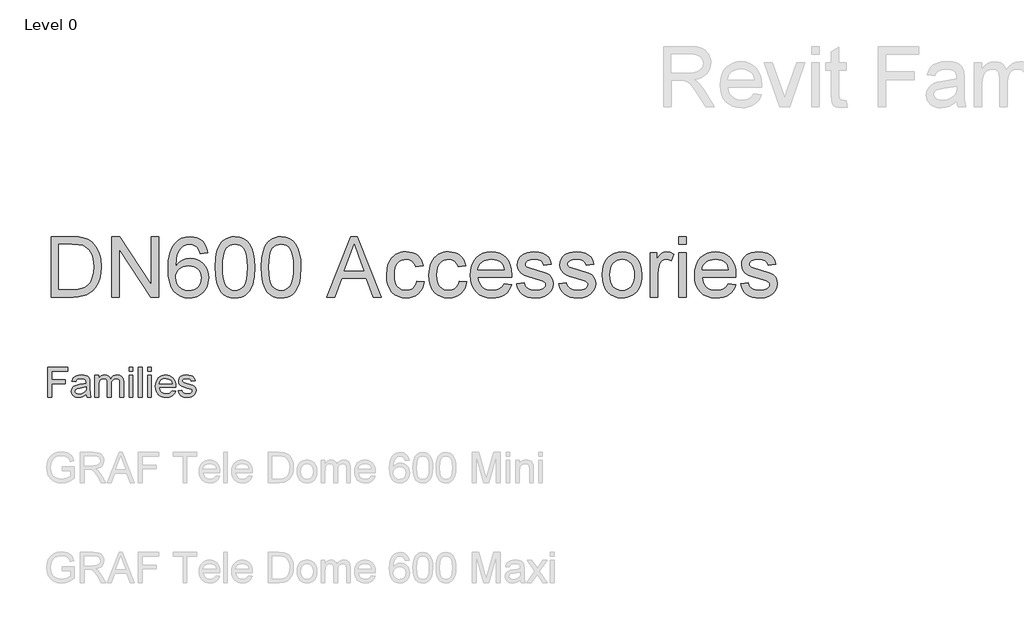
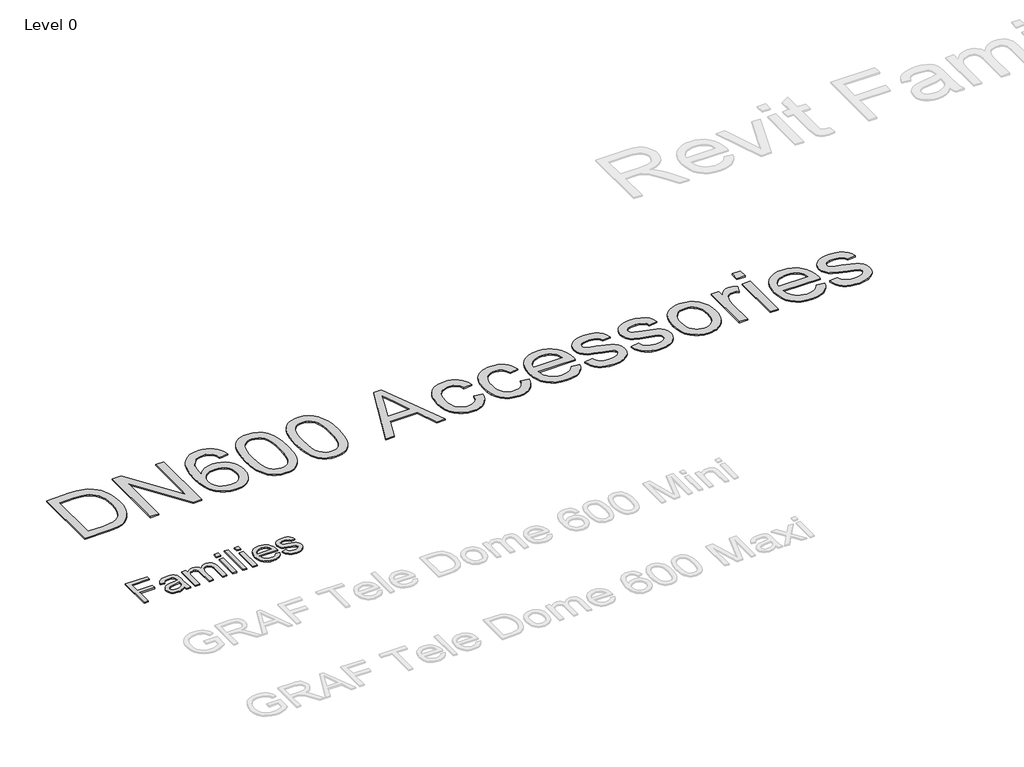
# One storey, part 23 of 25: 2 proxies.
"""IFC4 building model written with IfcOpenShell, lengths in millimetres."""

from ifc_helpers import new_model, si_unit, origin, origin_with_axes, place, context, project, spatial, polyline, outline, extrude, element, save

model = new_model("IFC4")

# Units and contexts
model_context = context("Model", 3, world=origin())
ifc_project = project(units=[si_unit("LENGTHUNIT", "METRE", prefix="MILLI")], contexts=[model_context])

# Site, building, storey
site = spatial("IfcSite", under=ifc_project)
building = spatial("IfcBuilding", under=site)
storey = spatial("IfcBuildingStorey", under=building, Name="Level 0", Elevation=0.0)

# Proxies
placement = place(None, origin())
element("IfcBuildingElementProxy", 1, Name="300mm Arial", ObjectType="300mm Arial", at=placement, inside=storey, context=model_context, shape_type="SweptSolid", body=[
    extrude(outline(polyline([(-15382.9152593, 8653.8274553), (-15382.9152593, 8949.2120707), (-15184.4537209, 8949.2120707), (-15184.4537209, 8912.2889938), (-15345.9921824, 8912.2889938), (-15345.9921824, 8824.5966861), (-15207.530644, 8824.5966861), (-15207.530644, 8787.6736092), (-15345.9921824, 8787.6736092), (-15345.9921824, 8653.8274553), (-15382.9152593, 8653.8274553)])), origin_with_axes(), (0.0, 0.0, 1.0), 10.0),
    extrude(outline(polyline([(-14999.8383363, 8681.519763), (-15017.4795622, 8666.3935611), (-15035.6436247, 8656.4957246), (-15054.7451872, 8651.0329842), (-15075.1989132, 8649.2120707), (-15106.0552834, 8653.5930803), (-15128.8167017, 8666.7361092), (-15142.8521584, 8686.6940419), (-15147.530644, 8711.519763), (-15145.763817, 8726.8262534), (-15140.4633363, 8740.7264938), (-15132.2872545, 8752.6255323), (-15121.8936247, 8761.9284169), (-15096.0402593, 8774.0438015), (-15064.093144, 8779.5966861), (-15026.3407401, 8785.4380323), (-15000.0546824, 8792.2889938), (-14999.8383363, 8800.5101476), (-15002.3804036, 8816.988513), (-15010.0066055, 8827.769763), (-15027.061894, 8835.7745707), (-15050.8239132, 8838.44284), (-15072.8191055, 8836.6669986), (-15088.1796824, 8831.3394746), (-15098.654442, 8821.4867101), (-15105.9921824, 8806.1351476), (-15142.9152593, 8810.7505323), (-15136.5060045, 8830.94284), (-15126.9417017, 8846.8082246), (-15113.3299228, 8858.941638), (-15094.7782401, 8867.9380323), (-15072.0889372, 8873.5089457), (-15046.0642978, 8875.3659169), (-15021.1033603, 8873.7252919), (-15001.3167017, 8868.8034169), (-14986.3978315, 8861.4025755), (-14976.0402593, 8852.3250515), (-14969.171269, 8841.1020948), (-14964.718144, 8827.2649553), (-14962.9152593, 8794.957263), (-14962.9152593, 8749.019763), (-14961.0402593, 8684.8731284), (-14953.6844901, 8653.8274553), (-14990.607567, 8653.8274553), (-14999.8383363, 8681.519763)]), holes=[polyline([(-14999.8383363, 8755.3659169), (-15059.405644, 8744.0438015), (-15091.1724709, 8738.0582246), (-15105.5594901, 8728.3226476), (-15110.607567, 8714.1159169), (-15107.858168, 8703.1363496), (-15099.6099709, 8694.1399553), (-15086.0432642, 8688.1363496), (-15067.3383363, 8686.1351476), (-15047.5066055, 8688.3436813), (-15029.982567, 8694.9692823), (-15015.7758363, 8704.7319025), (-15005.8960286, 8716.3514938), (-15001.515019, 8728.3226476), (-15000.0546824, 8744.9091861), (-14999.8383363, 8755.3659169)])]), origin_with_axes(), (0.0, 0.0, 1.0), 10.0),
    extrude(outline(polyline([(-14912.1460286, 8653.8274553), (-14912.1460286, 8870.7505323), (-14875.2229517, 8870.7505323), (-14875.2229517, 8835.0534169), (-14864.1171824, 8851.4506525), (-14849.8383363, 8864.2962053), (-14832.873192, 8872.598489), (-14813.7085286, 8875.3659169), (-14793.1736728, 8872.5444025), (-14776.7133363, 8864.0798592), (-14764.4176632, 8850.5311813), (-14756.3767978, 8832.457263), (-14742.9182642, 8851.2297991), (-14727.5667017, 8864.6387534), (-14710.3221103, 8872.684126), (-14691.1844901, 8875.3659169), (-14663.4290815, 8870.9037775), (-14642.9032401, 8857.5173592), (-14630.2199468, 8834.8460851), (-14625.9921824, 8802.5293784), (-14625.9921824, 8653.8274553), (-14662.9152593, 8653.8274553), (-14662.9152593, 8786.6639938), (-14666.3407401, 8817.4933207), (-14671.154442, 8825.9939217), (-14678.7445863, 8832.6736092), (-14688.5072065, 8837.0005323), (-14699.8383363, 8838.44284), (-14719.8413411, 8834.7469265), (-14736.1484324, 8823.6591861), (-14746.9927834, 8804.4224073), (-14750.607567, 8776.2793784), (-14750.607567, 8653.8274553), (-14787.530644, 8653.8274553), (-14787.530644, 8790.7745707), (-14789.6670622, 8811.6519746), (-14796.076317, 8826.5438015), (-14807.3533603, 8835.4680803), (-14824.093144, 8838.44284), (-14838.3179036, 8836.4596669), (-14851.4248747, 8830.5101476), (-14862.2421824, 8820.738513), (-14869.5979517, 8807.2889938), (-14873.8167017, 8788.629138), (-14875.2229517, 8763.2264938), (-14875.2229517, 8653.8274553), (-14912.1460286, 8653.8274553)])), origin_with_axes(), (0.0, 0.0, 1.0), 10.0),
    extrude(outline(polyline([(-14570.607567, 8912.2889938), (-14570.607567, 8949.2120707), (-14533.6844901, 8949.2120707), (-14533.6844901, 8912.2889938), (-14570.607567, 8912.2889938)])), origin_with_axes(), (0.0, 0.0, 1.0), 10.0),
    extrude(outline(polyline([(-14570.607567, 8653.8274553), (-14570.607567, 8870.7505323), (-14533.6844901, 8870.7505323), (-14533.6844901, 8653.8274553), (-14570.607567, 8653.8274553)])), origin_with_axes(), (0.0, 0.0, 1.0), 10.0),
    extrude(outline(polyline([(-14478.2998747, 8653.8274553), (-14478.2998747, 8949.2120707), (-14441.3767978, 8949.2120707), (-14441.3767978, 8653.8274553), (-14478.2998747, 8653.8274553)])), origin_with_axes(), (0.0, 0.0, 1.0), 10.0),
    extrude(outline(polyline([(-14385.9921824, 8912.2889938), (-14385.9921824, 8949.2120707), (-14349.0691055, 8949.2120707), (-14349.0691055, 8912.2889938), (-14385.9921824, 8912.2889938)])), origin_with_axes(), (0.0, 0.0, 1.0), 10.0),
    extrude(outline(polyline([(-14385.9921824, 8653.8274553), (-14385.9921824, 8870.7505323), (-14349.0691055, 8870.7505323), (-14349.0691055, 8653.8274553), (-14385.9921824, 8653.8274553)])), origin_with_axes(), (0.0, 0.0, 1.0), 10.0),
    extrude(outline(polyline([(-14141.8094901, 8718.44284), (-14105.607567, 8713.8274553), (-14118.6514372, 8686.5498111), (-14139.4657401, 8666.1591861), (-14167.5817257, 8653.4488496), (-14202.530644, 8649.2120707), (-14225.4408002, 8651.039745), (-14245.8539613, 8656.5227678), (-14263.7701271, 8665.6611392), (-14279.1892978, 8678.4548592), (-14291.5886367, 8694.547858), (-14300.4453074, 8713.5840659), (-14305.7593098, 8735.563483), (-14307.530644, 8760.4861092), (-14305.741281, 8786.2538375), (-14300.373192, 8808.9656765), (-14291.4263771, 8828.621626), (-14278.9008363, 8845.2216861), (-14263.5222305, 8858.4097871), (-14246.0162209, 8867.8298592), (-14226.3828074, 8873.4819025), (-14204.6219901, 8875.3659169), (-14183.5620442, 8873.4864097), (-14164.5168218, 8867.847888), (-14147.486323, 8858.450352), (-14132.4705478, 8845.2938015), (-14120.213186, 8828.7297991), (-14111.4579276, 8809.1099073), (-14106.2047726, 8786.434126), (-14104.4537209, 8760.7024553), (-14104.670067, 8750.7505323), (-14270.607567, 8750.7505323), (-14264.2163411, 8723.1123111), (-14249.3695863, 8702.7938015), (-14227.9423026, 8690.2998111), (-14201.8094901, 8686.1351476), (-14182.1580478, 8688.0642342), (-14165.607567, 8693.8514938), (-14152.1580478, 8703.8575034), (-14141.8094901, 8718.44284)]), holes=[polyline([(-14270.607567, 8787.6736092), (-14141.3767978, 8787.6736092), (-14146.3707882, 8807.1808207), (-14156.1604517, 8821.1351476), (-14177.686894, 8834.1159169), (-14204.7662209, 8838.44284), (-14229.655043, 8834.9903159), (-14250.2349709, 8824.6327438), (-14264.5408603, 8808.4879121), (-14270.607567, 8787.6736092)])]), origin_with_axes(), (0.0, 0.0, 1.0), 10.0),
    extrude(outline(polyline([(-14081.3767978, 8718.44284), (-14044.4537209, 8723.0582246), (-14038.6304036, 8707.2649553), (-14027.3623747, 8695.6543784), (-14010.577519, 8688.5149553), (-13988.2037209, 8686.1351476), (-13966.1003555, 8688.316638), (-13950.5594901, 8694.8611092), (-13941.3647786, 8704.3442823), (-13938.2998747, 8715.3418784), (-13941.3828074, 8724.7529361), (-13950.6316055, 8731.9284169), (-13988.6364132, 8742.457263), (-14044.2373747, 8760.5221669), (-14058.3088892, 8769.5996909), (-14068.5042017, 8781.6159169), (-14074.6971103, 8795.8046188), (-14076.7614132, 8811.3995707), (-14075.1027593, 8825.7054601), (-14070.1267978, 8838.91159), (-14062.2842497, 8850.4951236), (-14052.0258363, 8859.9332246), (-14028.5522786, 8870.8587053), (-13996.7854517, 8875.3659169), (-13972.7529997, 8873.5540178), (-13951.857567, 8868.1183207), (-13935.0546824, 8859.5906765), (-13923.2998747, 8848.5029361), (-13915.5114132, 8834.0347871), (-13910.607567, 8815.3659169), (-13947.530644, 8810.7505323), (-13952.1911007, 8822.3701236), (-13961.4128555, 8831.1231284), (-13975.2860526, 8836.6129121), (-13993.9008363, 8838.44284), (-14015.1027593, 8836.6940419), (-14029.2373747, 8831.4476476), (-14037.1880959, 8823.8755323), (-14039.8383363, 8815.1495707), (-14035.4392978, 8804.4043784), (-14021.6652593, 8796.25534), (-13989.8623747, 8788.394763), (-13935.6676632, 8771.0149553), (-13921.3527593, 8762.7036573), (-13910.499394, 8751.3274553), (-13903.6574468, 8736.8502919), (-13901.3767978, 8719.2361092), (-13904.0540815, 8701.0269746), (-13912.0859324, 8683.8995707), (-13925.1658603, 8669.1970467), (-13942.9873747, 8658.2625515), (-13964.513817, 8651.4746909), (-13988.7085286, 8649.2120707), (-14025.9380959, 8653.5750515), (-14053.107567, 8666.6639938), (-14071.2445863, 8688.3346669), (-14081.3767978, 8718.44284)])), origin_with_axes(), (0.0, 0.0, 1.0), 10.0),
])
element("IfcBuildingElementProxy", 2, Name="600mm Arial", ObjectType="600mm Arial", at=placement, inside=storey, context=model_context, shape_type="SweptSolid", body=[
    extrude(outline(polyline([(-15349.2984981, 9653.8274553), (-15349.2984981, 10256.5653162), (-15141.3715944, 10256.5653162), (-15079.2363255, 10254.3948125), (-15033.8028991, 10247.8833011), (-14985.7575105, 10231.1446704), (-14945.2169146, 10204.7675313), (-14922.8772805, 10183.2096464), (-14903.5358846, 10158.8558583), (-14887.1927269, 10131.7061671), (-14873.8478075, 10101.7605727), (-14863.4827323, 10069.2949866), (-14856.0791072, 10034.5853203), (-14850.1562071, 9958.4337473), (-14854.1661208, 9893.7416985), (-14866.195862, 9836.8119597), (-14884.5163854, 9788.3435069), (-14907.3986455, 9749.0353157), (-14933.7389964, 9718.0044694), (-14962.433792, 9694.3680512), (-14995.3776247, 9676.8384741), (-15034.4650866, 9664.1281512), (-15079.7697543, 9656.4026293), (-15131.3652042, 9653.8274553), (-15349.2984981, 9653.8274553)]), holes=[polyline([(-15273.9562655, 9729.1696879), (-15140.6358305, 9729.1696879), (-15085.4903194, 9731.8920147), (-15043.6621365, 9740.058995), (-15012.0978613, 9753.1923822), (-14987.7440733, 9770.8139298), (-14961.5692693, 9803.4266687), (-14941.9059767, 9845.6411276), (-14929.6003239, 9897.6412476), (-14925.4984397, 9959.6109697), (-14927.5079951, 10003.352139), (-14933.5366613, 10041.722231), (-14943.5844383, 10074.721246), (-14957.6513261, 10102.3491839), (-14974.5968905, 10125.231444), (-14993.2806973, 10143.9934257), (-15013.7027465, 10158.6351291), (-15035.8630382, 10169.1565542), (-15079.1995373, 10178.2064513), (-15142.6959696, 10181.2230836), (-15273.9562655, 10181.2230836), (-15273.9562655, 9729.1696879)])]), origin_with_axes(), (0.0, 0.0, 1.0), 10.0),
    extrude(outline(polyline([(-14746.5606372, 9653.8274553), (-14746.5606372, 10256.5653162), (-14665.9209039, 10256.5653162), (-14351.013916, 9779.0544865), (-14351.013916, 10256.5653162), (-14275.6716834, 10256.5653162), (-14275.6716834, 9653.8274553), (-14356.3114167, 9653.8274553), (-14671.2184046, 10131.4854379), (-14671.2184046, 9653.8274553), (-14746.5606372, 9653.8274553)])), origin_with_axes(), (0.0, 0.0, 1.0), 10.0),
    extrude(outline(polyline([(-13785.9471714, 10096.4630719), (-13861.289404, 10087.0452929), (-13873.4295099, 10124.3853154), (-13889.8370469, 10149.8795376), (-13906.0330517, 10163.592339), (-13924.0132842, 10173.3871971), (-13943.7777444, 10179.264112), (-13965.3264323, 10181.2230836), (-14000.3487982, 10176.6613469), (-14033.311025, 10162.9761367), (-14061.6195445, 10134.1525823), (-14084.7409279, 10094.4765092), (-14093.7770294, 10069.1708264), (-14100.3575186, 10038.3561108), (-14106.15166, 9960.1995809), (-14075.9301541, 9995.4610702), (-14039.7121717, 10020.3114989), (-13999.5210637, 10035.0451728), (-13957.3801812, 10039.9563975), (-13921.1805928, 10036.5994743), (-13887.7769077, 10026.5287046), (-13857.1691257, 10009.7440886), (-13829.3572468, 9986.2456262), (-13806.2450605, 9957.4312689), (-13789.736356, 9924.6989684), (-13779.8311332, 9888.0487246), (-13776.5293923, 9847.4805376), (-13778.0836938, 9820.0135481), (-13782.7465981, 9793.530643), (-13790.5181052, 9768.0318222), (-13801.3982152, 9743.5170858), (-13815.000652, 9720.9015401), (-13830.9391394, 9701.1002917), (-13849.2136775, 9684.1133406), (-13869.8242663, 9669.9406867), (-13892.3294474, 9658.7708696), (-13916.2877623, 9650.7924289), (-13941.6992111, 9646.0053644), (-13968.5637938, 9644.4096763), (-14013.4775869, 9648.6403192), (-14054.0411754, 9661.332248), (-14090.2545593, 9682.4854628), (-14122.1177386, 9712.0999634), (-14148.094806, 9751.4265487), (-14166.6498541, 9801.7160174), (-14177.782883, 9862.9683696), (-14181.4938926, 9935.1836052), (-14177.3736143, 10016.1452353), (-14165.0127792, 10085.2426711), (-14144.4113875, 10142.4759125), (-14131.0204829, 10166.6434603), (-14115.5694391, 10187.8449595), (-14084.3086666, 10217.9101156), (-14048.063093, 10239.3852271), (-14006.8327184, 10252.2702939), (-13960.6175427, 10256.5653162), (-13925.9170735, 10253.9073688), (-13894.5091482, 10245.9335266), (-13866.3937667, 10232.6437895), (-13841.5709291, 10214.0381576), (-13820.71202, 10190.7420302), (-13804.488424, 10163.3808069), (-13792.9001411, 10131.9544874), (-13785.9471714, 10096.4630719)]), holes=[polyline([(-14106.15166, 9848.65776), (-14101.7922584, 9815.2724689), (-14088.7140534, 9783.395494), (-14068.4069673, 9755.9882854), (-14042.3609221, 9736.0122931), (-14010.9254056, 9723.8170049), (-13974.4499057, 9719.7519089), (-13948.2613062, 9721.8580333), (-13924.7306541, 9728.1764066), (-13903.8579494, 9738.7070287), (-13885.6431921, 9753.4498996), (-13870.8681315, 9771.8072112), (-13860.3145167, 9793.1811551), (-13853.9823479, 9817.5717314), (-13851.8716249, 9844.97894), (-13853.9547567, 9871.3146924), (-13860.2041521, 9894.6981917), (-13870.6198111, 9915.129438), (-13885.2017337, 9932.6084313), (-13903.4716733, 9946.6109397), (-13924.9513833, 9956.6127315), (-13949.6408637, 9962.6138065), (-13977.5401145, 9964.6141649), (-14003.3792261, 9962.6138065), (-14027.1857897, 9956.6127315), (-14048.9598053, 9946.6109397), (-14068.7012729, 9932.6084313), (-14085.0858173, 9915.3593642), (-14096.7890632, 9895.6178967), (-14103.8110108, 9873.3840286), (-14106.15166, 9848.65776)])]), origin_with_axes(), (0.0, 0.0, 1.0), 10.0),
    extrude(outline(polyline([(-13710.6049388, 9950.3403434), (-13705.0683148, 10046.8173967), (-13698.1475347, 10087.7304731), (-13688.4584427, 10123.759916), (-13676.0424254, 10155.200031), (-13660.9408695, 10182.3451237), (-13643.153775, 10205.1951941), (-13622.681142, 10223.7502423), (-13599.4539925, 10238.1068371), (-13573.4033487, 10248.3615477), (-13544.5292106, 10254.5143741), (-13512.8315782, 10256.5653162), (-13466.4048704, 10251.7092739), (-13424.8342049, 10237.1411469), (-13390.0693564, 10213.4311523), (-13364.0600993, 10181.1495072), (-13344.4152008, 10140.5721232), (-13328.7434278, 10091.9749116), (-13318.4795201, 10030.2627069), (-13315.0582176, 9950.3403434), (-13320.5396593, 9854.4151132), (-13327.3914615, 9813.6399926), (-13336.9839845, 9777.6565349), (-13349.3034328, 9746.2026243), (-13364.3360108, 9719.0161449), (-13382.0817186, 9696.0970966), (-13402.540556, 9677.4454794), (-13425.7952967, 9662.9923155), (-13451.9287139, 9652.6686271), (-13480.9408077, 9646.474414), (-13512.8315782, 9644.4096763), (-13554.3286672, 9647.9965257), (-13591.1168668, 9658.7570741), (-13623.1961767, 9676.6913213), (-13650.5665972, 9701.7992675), (-13676.8333716, 9747.1867087), (-13695.5953534, 9803.7393684), (-13706.8525424, 9871.4572466), (-13710.6049388, 9950.3403434)]), holes=[polyline([(-13635.2627062, 9950.4874962), (-13633.0554142, 9884.9907055), (-13626.4335383, 9831.9743115), (-13615.3970784, 9791.4383142), (-13599.9460347, 9763.3827135), (-13581.2576293, 9744.2942365), (-13560.5090848, 9730.65961), (-13537.7004011, 9722.4788342), (-13512.8315782, 9719.7519089), (-13487.9627553, 9722.4880312), (-13465.1540716, 9730.6963982), (-13444.4055271, 9744.3770099), (-13425.7171217, 9763.5298663), (-13410.2660779, 9791.6314522), (-13399.2296181, 9832.1582525), (-13392.6077422, 9885.1102672), (-13390.4004502, 9950.4874962), (-13392.5341658, 10014.2506431), (-13398.9353125, 10066.3335365), (-13409.6038903, 10106.7361766), (-13424.5398994, 10135.4585634), (-13442.915605, 10155.480541), (-13463.9032728, 10169.7819536), (-13487.5029028, 10178.3628011), (-13513.714495, 10181.2230836), (-13538.4545592, 10178.703092), (-13560.8769668, 10171.143117), (-13580.9817178, 10158.5431586), (-13598.7688123, 10140.9032169), (-13614.7348909, 10109.6332474), (-13626.1392327, 10067.4739707), (-13632.9818378, 10014.425387), (-13635.2627062, 9950.4874962)])]), origin_with_axes(), (0.0, 0.0, 1.0), 10.0),
    extrude(outline(polyline([(-13249.1337641, 9950.3403434), (-13243.59714, 10046.8173967), (-13236.67636, 10087.7304731), (-13226.9872679, 10123.759916), (-13214.5712506, 10155.200031), (-13199.4696947, 10182.3451237), (-13181.6826002, 10205.1951941), (-13161.2099672, 10223.7502423), (-13137.9828177, 10238.1068371), (-13111.9321739, 10248.3615477), (-13083.0580359, 10254.5143741), (-13051.3604034, 10256.5653162), (-13004.9336957, 10251.7092739), (-12963.3630302, 10237.1411469), (-12928.5981817, 10213.4311523), (-12902.5889246, 10181.1495072), (-12882.9440261, 10140.5721232), (-12867.2722531, 10091.9749116), (-12857.0083454, 10030.2627069), (-12853.5870428, 9950.3403434), (-12859.0684846, 9854.4151132), (-12865.9202867, 9813.6399926), (-12875.5128097, 9777.6565349), (-12887.8322581, 9746.2026243), (-12902.8648361, 9719.0161449), (-12920.6105438, 9696.0970966), (-12941.0693813, 9677.4454794), (-12964.3241219, 9662.9923155), (-12990.4575391, 9652.6686271), (-13019.469633, 9646.474414), (-13051.3604034, 9644.4096763), (-13092.8574925, 9647.9965257), (-13129.645692, 9658.7570741), (-13161.725002, 9676.6913213), (-13189.0954224, 9701.7992675), (-13215.3621969, 9747.1867087), (-13234.1241786, 9803.7393684), (-13245.3813677, 9871.4572466), (-13249.1337641, 9950.3403434)]), holes=[polyline([(-13173.7915314, 9950.4874962), (-13171.5842395, 9884.9907055), (-13164.9623636, 9831.9743115), (-13153.9259037, 9791.4383142), (-13138.4748599, 9763.3827135), (-13119.7864545, 9744.2942365), (-13099.03791, 9730.65961), (-13076.2292263, 9722.4788342), (-13051.3604034, 9719.7519089), (-13026.4915806, 9722.4880312), (-13003.6828969, 9730.6963982), (-12982.9343523, 9744.3770099), (-12964.245947, 9763.5298663), (-12948.7949032, 9791.6314522), (-12937.7584433, 9832.1582525), (-12931.1365674, 9885.1102672), (-12928.9292754, 9950.4874962), (-12931.062991, 10014.2506431), (-12937.4641377, 10066.3335365), (-12948.1327156, 10106.7361766), (-12963.0687246, 10135.4585634), (-12981.4444303, 10155.480541), (-13002.4320981, 10169.7819536), (-13026.0317281, 10178.3628011), (-13052.2433202, 10181.2230836), (-13076.9833844, 10178.703092), (-13099.405792, 10171.143117), (-13119.5105431, 10158.5431586), (-13137.2976375, 10140.9032169), (-13153.2637161, 10109.6332474), (-13164.668058, 10067.4739707), (-13171.5106631, 10014.425387), (-13173.7915314, 9950.4874962)])]), origin_with_axes(), (0.0, 0.0, 1.0), 10.0),
    extrude(outline(polyline([(-12594.1566598, 9653.8274553), (-12353.561835, 10256.5653162), (-12289.403215, 10256.5653162), (-12048.8083902, 9653.8274553), (-12128.4180539, 9653.8274553), (-12197.4327162, 9842.1830369), (-12445.6794866, 9842.1830369), (-12514.5469961, 9653.8274553), (-12594.1566598, 9653.8274553)]), holes=[polyline([(-12418.0147605, 9917.5252695), (-12224.9502895, 9917.5252695), (-12279.249672, 10065.7081371), (-12321.482525, 10181.2230836), (-12359.0064885, 10078.6575834), (-12418.0147605, 9917.5252695)])]), origin_with_axes(), (0.0, 0.0, 1.0), 10.0),
    extrude(outline(polyline([(-11695.2002164, 9813.9296996), (-11619.8579838, 9804.5119206), (-11628.0525553, 9768.9607243), (-11640.8640457, 9737.5022151), (-11658.2924553, 9710.1363932), (-11680.3377838, 9686.8632585), (-11706.0711294, 9668.2898163), (-11734.5635899, 9655.0230718), (-11765.8151654, 9647.0630251), (-11799.8258559, 9644.4096763), (-11842.0817015, 9648.1114888), (-11879.9689485, 9659.2169266), (-11913.4875968, 9677.7259894), (-11942.6376464, 9703.6386775), (-11966.2326778, 9736.467547), (-11983.0862717, 9775.7251544), (-11993.1984281, 9821.4114997), (-11996.5691469, 9873.5265829), (-11990.8117936, 9940.5730765), (-11983.6151021, 9970.7439986), (-11973.539734, 9998.6800376), (-11960.5167113, 10023.8201735), (-11944.4770564, 10045.6033861), (-11925.420769, 10064.0296755), (-11903.3478493, 10079.0990418), (-11879.2561771, 10090.8160833), (-11854.1436324, 10099.1853987), (-11828.0102152, 10104.2069879), (-11800.8559254, 10105.880851), (-11767.4292477, 10103.5815885), (-11737.1939462, 10096.6838011), (-11710.150021, 10085.1874888), (-11686.2974721, 10069.0926515), (-11666.0409698, 10048.7671713), (-11649.7851841, 10024.5789301), (-11637.5301152, 9996.5279279), (-11629.2757629, 9964.6141649), (-11704.6179955, 9955.1963858), (-11718.2848116, 9988.0666421), (-11739.566785, 10011.6294838), (-11767.2866934, 10025.8113348), (-11800.2673142, 10030.5386184), (-11825.8673026, 10028.2117648), (-11848.9564963, 10021.2312039), (-11869.5348954, 10009.5969358), (-11887.6024999, 9993.3089605), (-11902.3131812, 9971.9901989), (-11912.8208107, 9945.2635719), (-11919.1253884, 9913.1290796), (-11921.2269143, 9875.586722), (-11919.1713736, 9837.4787459), (-11913.0047517, 9804.9717731), (-11902.7270484, 9778.0658036), (-11888.3382639, 9756.7608376), (-11870.6293443, 9740.5694313), (-11850.3912361, 9729.004141), (-11827.6239391, 9722.0649669), (-11802.3274534, 9719.7519089), (-11763.3135678, 9725.5276562), (-11746.4415798, 9732.7473404), (-11731.3262284, 9742.8548982), (-11718.3905777, 9755.9606942), (-11708.0576922, 9772.1750932), (-11700.3275717, 9791.498095), (-11695.2002164, 9813.9296996)])), origin_with_axes(), (0.0, 0.0, 1.0), 10.0),
    extrude(outline(polyline([(-11271.400158, 9813.9296996), (-11196.0579254, 9804.5119206), (-11204.2524968, 9768.9607243), (-11217.0639873, 9737.5022151), (-11234.4923968, 9710.1363932), (-11256.5377254, 9686.8632585), (-11282.2710709, 9668.2898163), (-11310.7635315, 9655.0230718), (-11342.015107, 9647.0630251), (-11376.0257974, 9644.4096763), (-11418.2816431, 9648.1114888), (-11456.1688901, 9659.2169266), (-11489.6875383, 9677.7259894), (-11518.8375879, 9703.6386775), (-11542.4326194, 9736.467547), (-11559.2862133, 9775.7251544), (-11569.3983696, 9821.4114997), (-11572.7690884, 9873.5265829), (-11567.0117352, 9940.5730765), (-11559.8150437, 9970.7439986), (-11549.7396755, 9998.6800376), (-11536.7166529, 10023.8201735), (-11520.6769979, 10045.6033861), (-11501.6207106, 10064.0296755), (-11479.5477909, 10079.0990418), (-11455.4561187, 10090.8160833), (-11430.343574, 10099.1853987), (-11404.2101568, 10104.2069879), (-11377.055867, 10105.880851), (-11343.6291892, 10103.5815885), (-11313.3938877, 10096.6838011), (-11286.3499626, 10085.1874888), (-11262.4974137, 10069.0926515), (-11242.2409113, 10048.7671713), (-11225.9851257, 10024.5789301), (-11213.7300567, 9996.5279279), (-11205.4757044, 9964.6141649), (-11280.8179371, 9955.1963858), (-11294.4847532, 9988.0666421), (-11315.7667266, 10011.6294838), (-11343.4866349, 10025.8113348), (-11376.4672558, 10030.5386184), (-11402.0672441, 10028.2117648), (-11425.1564379, 10021.2312039), (-11445.734837, 10009.5969358), (-11463.8024415, 9993.3089605), (-11478.5131227, 9971.9901989), (-11489.0207522, 9945.2635719), (-11495.3253299, 9913.1290796), (-11497.4268558, 9875.586722), (-11495.3713152, 9837.4787459), (-11489.2046932, 9804.9717731), (-11478.92699, 9778.0658036), (-11464.5382054, 9756.7608376), (-11446.8292859, 9740.5694313), (-11426.5911776, 9729.004141), (-11403.8238807, 9722.0649669), (-11378.527395, 9719.7519089), (-11339.5135094, 9725.5276562), (-11322.6415214, 9732.7473404), (-11307.5261699, 9742.8548982), (-11294.5905193, 9755.9606942), (-11284.2576337, 9772.1750932), (-11276.5275133, 9791.498095), (-11271.400158, 9813.9296996)])), origin_with_axes(), (0.0, 0.0, 1.0), 10.0),
    extrude(outline(polyline([(-10820.2296791, 9785.6763624), (-10746.3589745, 9776.2585833), (-10757.6851414, 9746.6716739), (-10772.9752368, 9720.5980375), (-10792.2292607, 9698.0376741), (-10815.4472132, 9678.9905838), (-10842.3899708, 9663.8614368), (-10872.8184103, 9653.0549031), (-10906.7325317, 9646.570983), (-10944.1323351, 9644.4096763), (-10990.8809396, 9648.13908), (-11032.5343785, 9659.3272912), (-11069.0926518, 9677.9743098), (-11100.5557594, 9704.0801359), (-11125.8568436, 9736.9182025), (-11143.9290467, 9775.7619426), (-11154.7723685, 9820.6113564), (-11158.3868091, 9871.4664437), (-11154.7355803, 9924.0459778), (-11143.7818939, 9970.3899122), (-11125.5257498, 10010.4982467), (-11099.9671482, 10044.3709814), (-11068.586814, 10071.2815494), (-11032.8654723, 10090.5033836), (-10992.803123, 10102.0364842), (-10948.3997662, 10105.880851), (-10905.4265507, 10102.0456812), (-10866.5644164, 10090.5401718), (-10831.8133634, 10071.3643228), (-10801.1733917, 10044.5181342), (-10776.1620146, 10010.7189759), (-10758.2967452, 9970.6842178), (-10747.5775836, 9924.4138598), (-10744.0045297, 9871.9079021), (-10744.4459881, 9851.6008159), (-11083.0445764, 9851.6008159), (-11078.6805763, 9821.5356599), (-11070.0031597, 9795.2045061), (-11057.0123268, 9772.6073545), (-11039.7080774, 9753.7442052), (-11019.0469049, 9738.8725756), (-10995.9853023, 9728.249983), (-10970.5232697, 9721.8764274), (-10942.6608071, 9719.7519089), (-10902.5616696, 9723.6882462), (-10868.7901025, 9735.4972583), (-10841.3461056, 9755.914709), (-10820.2296791, 9785.6763624)]), holes=[polyline([(-11083.0445764, 9926.9430486), (-10819.3467623, 9926.9430486), (-10829.5370936, 9966.7478804), (-10838.3018821, 9982.4012593), (-10849.5130859, 9995.2219469), (-10870.0592953, 10010.6729907), (-10893.4381961, 10021.7094505), (-10919.6497883, 10028.3313264), (-10948.6940718, 10030.5386184), (-10975.186174, 10028.7773833), (-10999.4801812, 10023.4936782), (-11021.5760936, 10014.6875029), (-11041.473911, 10002.3588576), (-11058.1711551, 9987.0779592), (-11070.6653473, 9969.4150249), (-11078.9564878, 9949.3700547), (-11083.0445764, 9926.9430486)])]), origin_with_axes(), (0.0, 0.0, 1.0), 10.0),
    extrude(outline(polyline([(-10696.9156343, 9785.6763624), (-10621.5734017, 9795.0941415), (-10617.020862, 9777.9140523), (-10609.6908133, 9762.8676787), (-10599.5832554, 9749.9550207), (-10586.6981886, 9739.1760782), (-10570.9988244, 9730.6780041), (-10552.4483748, 9724.6079512), (-10506.7942192, 9719.7519089), (-10461.6918866, 9724.203281), (-10444.1623095, 9729.7674962), (-10429.9804586, 9737.5573974), (-10411.2184769, 9756.9079904), (-10406.5279814, 9767.7421151), (-10404.9644829, 9779.3487921), (-10406.5371785, 9789.5207293), (-10411.2552651, 9798.5522322), (-10430.1276114, 9813.1939356), (-10458.3441604, 9822.7588675), (-10507.677136, 9834.6782442), (-10576.4342809, 9854.562266), (-10621.1319433, 9871.5400201), (-10649.845133, 9890.0628785), (-10670.6488599, 9914.5822135), (-10683.2856064, 9943.5345265), (-10687.4978552, 9975.3563191), (-10684.1133409, 10004.5477554), (-10673.9597978, 10031.4951116), (-10657.956931, 10055.1315298), (-10637.0244455, 10074.3901522), (-10616.2207187, 10086.511864), (-10589.1262097, 10096.6838011), (-10557.8010578, 10103.5815885), (-10524.3054022, 10105.880851), (-10475.2667322, 10102.183637), (-10432.629209, 10091.0919948), (-10398.342607, 10073.6911764), (-10374.3567009, 10051.0664337), (-10358.4641987, 10021.5439036), (-10348.4578085, 9983.449723), (-10423.8000411, 9974.0319439), (-10433.3097907, 9997.7419385), (-10452.1269547, 10015.6026094), (-10480.4354743, 10026.8046161), (-10518.4192903, 10030.5386184), (-10561.6822129, 10026.970163), (-10590.5241613, 10016.264797), (-10606.7477573, 10000.8137532), (-10612.1556226, 9983.0082646), (-10609.9115425, 9971.4199818), (-10603.1793019, 9961.0824977), (-10591.6645955, 9951.8486596), (-10575.0731175, 9944.4542315), (-10510.1787336, 9928.4145765), (-10399.5934058, 9892.9507522), (-10370.3835754, 9875.9913922), (-10348.2370793, 9852.7780383), (-10334.2759576, 9823.2371141), (-10329.6222503, 9787.2950432), (-10335.085298, 9750.1389617), (-10351.4744408, 9715.1901721), (-10378.1642796, 9685.1893954), (-10414.5294148, 9662.8773524), (-10458.454525, 9649.0265953), (-10507.8242888, 9644.4096763), (-10548.3740817, 9646.6353623), (-10583.7919208, 9653.3124205), (-10614.077806, 9664.4408509), (-10639.2317375, 9680.0206534), (-10659.7779469, 9699.9782516), (-10676.2406662, 9724.2400692), (-10688.6198953, 9752.8061061), (-10696.9156343, 9785.6763624)])), origin_with_axes(), (0.0, 0.0, 1.0), 10.0),
    extrude(outline(polyline([(-10273.1155759, 9785.6763624), (-10197.7733433, 9795.0941415), (-10193.2208036, 9777.9140523), (-10185.8907548, 9762.8676787), (-10175.783197, 9749.9550207), (-10162.8981301, 9739.1760782), (-10147.198766, 9730.6780041), (-10128.6483164, 9724.6079512), (-10082.9941608, 9719.7519089), (-10037.8918282, 9724.203281), (-10020.3622511, 9729.7674962), (-10006.1804002, 9737.5573974), (-9987.4184184, 9756.9079904), (-9982.727923, 9767.7421151), (-9981.1644245, 9779.3487921), (-9982.73712, 9789.5207293), (-9987.4552066, 9798.5522322), (-10006.327553, 9813.1939356), (-10034.544102, 9822.7588675), (-10083.8770775, 9834.6782442), (-10152.6342224, 9854.562266), (-10197.3318849, 9871.5400201), (-10226.0450746, 9890.0628785), (-10246.8488014, 9914.5822135), (-10259.4855479, 9943.5345265), (-10263.6977968, 9975.3563191), (-10260.3132824, 10004.5477554), (-10250.1597394, 10031.4951116), (-10234.1568726, 10055.1315298), (-10213.2243871, 10074.3901522), (-10192.4206602, 10086.511864), (-10165.3261513, 10096.6838011), (-10134.0009994, 10103.5815885), (-10100.5053437, 10105.880851), (-10051.4666738, 10102.183637), (-10008.8291505, 10091.0919948), (-9974.5425486, 10073.6911764), (-9950.5566425, 10051.0664337), (-9934.6641403, 10021.5439036), (-9924.65775, 9983.449723), (-9999.9999826, 9974.0319439), (-10009.5097322, 9997.7419385), (-10028.3268963, 10015.6026094), (-10056.6354158, 10026.8046161), (-10094.6192318, 10030.5386184), (-10137.8821544, 10026.970163), (-10166.7241029, 10016.264797), (-10182.9476989, 10000.8137532), (-10188.3555642, 9983.0082646), (-10186.111484, 9971.4199818), (-10179.3792435, 9961.0824977), (-10167.864537, 9951.8486596), (-10151.2730591, 9944.4542315), (-10086.3786751, 9928.4145765), (-9975.7933474, 9892.9507522), (-9946.5835169, 9875.9913922), (-9924.4370208, 9852.7780383), (-9910.4758991, 9823.2371141), (-9905.8221919, 9787.2950432), (-9911.2852395, 9750.1389617), (-9927.6743824, 9715.1901721), (-9954.3642211, 9685.1893954), (-9990.7293564, 9662.8773524), (-10034.6544666, 9649.0265953), (-10084.0242303, 9644.4096763), (-10124.5740233, 9646.6353623), (-10159.9918624, 9653.3124205), (-10190.2777476, 9664.4408509), (-10215.431679, 9680.0206534), (-10235.9778885, 9699.9782516), (-10252.4406077, 9724.2400692), (-10264.8198369, 9752.8061061), (-10273.1155759, 9785.6763624)])), origin_with_axes(), (0.0, 0.0, 1.0), 10.0),
    extrude(outline(polyline([(-9839.8977383, 9875.1452636), (-9835.8234453, 9932.4704755), (-9823.600566, 9981.8678304), (-9803.2291005, 10023.3373283), (-9774.7090488, 10056.8789693), (-9745.9958591, 10078.3172925), (-9714.3028252, 10093.6303806), (-9679.6299471, 10102.8182334), (-9641.9772249, 10105.880851), (-9600.411158, 10102.1514473), (-9562.8274137, 10090.9632361), (-9529.2259919, 10072.3162175), (-9499.6068928, 10046.2103914), (-9475.4324472, 10013.5286746), (-9458.1649861, 9975.153984), (-9447.8045094, 9931.0863195), (-9444.3510171, 9881.3256812), (-9445.8777274, 9840.9966174), (-9450.4578583, 9805.2108964), (-9458.0914097, 9773.9685179), (-9468.7783816, 9747.2694821), (-9482.3854169, 9724.2078795), (-9498.7791583, 9703.8778008), (-9517.9596058, 9686.2792458), (-9539.9267595, 9671.4122147), (-9563.8252936, 9659.5986041), (-9588.7998825, 9651.1603109), (-9614.8505263, 9646.0973349), (-9641.9772249, 9644.4096763), (-9684.1502972, 9648.1252844), (-9722.0835294, 9659.2721089), (-9755.7769216, 9677.8501496), (-9785.2304739, 9703.8594067), (-9809.1474021, 9736.8584216), (-9826.2309222, 9776.4057361), (-9836.4810343, 9822.5013501), (-9839.8977383, 9875.1452636)]), holes=[polyline([(-9764.5555057, 9875.2924164), (-9762.3758049, 9838.7479387), (-9755.8367025, 9807.1054886), (-9744.9381983, 9780.3650661), (-9729.6802926, 9758.5266712), (-9711.1206459, 9741.5627127), (-9690.3169191, 9729.4455994), (-9667.2691121, 9722.1753315), (-9641.9772249, 9719.7519089), (-9616.8140965, 9722.1891271), (-9593.85826, 9729.5007817), (-9573.1097154, 9741.6868728), (-9554.5684629, 9758.7474004), (-9539.3105571, 9780.801926), (-9528.412053, 9807.9700113), (-9521.8729506, 9840.2516564), (-9519.6932497, 9877.6468612), (-9521.8867461, 9913.0325106), (-9528.4672353, 9943.8472262), (-9539.4347173, 9970.0910081), (-9554.7891921, 9991.7638561), (-9573.3994225, 10008.7278146), (-9594.1341715, 10020.8449278), (-9616.9934389, 10028.1151958), (-9641.9772249, 10030.5386184), (-9667.2691121, 10028.1243928), (-9690.3169191, 10020.881716), (-9711.1206459, 10008.8105881), (-9729.6802926, 9991.9110089), (-9744.9381983, 9970.1369933), (-9755.8367025, 9943.442556), (-9762.3758049, 9911.8276971), (-9764.5555057, 9875.2924164)])]), origin_with_axes(), (0.0, 0.0, 1.0), 10.0),
    extrude(outline(polyline([(-9359.5910054, 9653.8274553), (-9359.5910054, 10096.4630719), (-9293.6665519, 10096.4630719), (-9293.6665519, 10030.9800768), (-9269.3127638, 10068.9454987), (-9246.8719621, 10091.312724), (-9224.357584, 10102.2388193), (-9199.7830667, 10105.880851), (-9162.2591032, 10100.0683155), (-9124.1465285, 10082.6307089), (-9149.309657, 10015.0875746), (-9175.7971607, 10026.6758574), (-9202.2846643, 10030.5386184), (-9224.7806483, 10026.8230102), (-9244.8853993, 10015.6761858), (-9261.1273894, 9997.9442736), (-9272.0350906, 9974.4734023), (-9281.1953523, 9932.3877021), (-9284.2487728, 9886.4760291), (-9284.2487728, 9653.8274553), (-9359.5910054, 9653.8274553)])), origin_with_axes(), (0.0, 0.0, 1.0), 10.0),
    extrude(outline(polyline([(-9077.0576331, 10181.2230836), (-9077.0576331, 10256.5653162), (-9001.7154005, 10256.5653162), (-9001.7154005, 10181.2230836), (-9077.0576331, 10181.2230836)])), origin_with_axes(), (0.0, 0.0, 1.0), 10.0),
    extrude(outline(polyline([(-9077.0576331, 9653.8274553), (-9077.0576331, 10096.4630719), (-9001.7154005, 10096.4630719), (-9001.7154005, 9653.8274553), (-9077.0576331, 9653.8274553)])), origin_with_axes(), (0.0, 0.0, 1.0), 10.0),
    extrude(outline(polyline([(-8578.7982589, 9785.6763624), (-8504.9275543, 9776.2585833), (-8516.2537212, 9746.6716739), (-8531.5438166, 9720.5980375), (-8550.7978405, 9698.0376741), (-8574.0157929, 9678.9905838), (-8600.9585506, 9663.8614368), (-8631.3869901, 9653.0549031), (-8665.3011115, 9646.570983), (-8702.7009149, 9644.4096763), (-8749.4495194, 9648.13908), (-8791.1029583, 9659.3272912), (-8827.6612316, 9677.9743098), (-8859.1243392, 9704.0801359), (-8884.4254234, 9736.9182025), (-8902.4976264, 9775.7619426), (-8913.3409482, 9820.6113564), (-8916.9553888, 9871.4664437), (-8913.30416, 9924.0459778), (-8902.3504736, 9970.3899122), (-8884.0943296, 10010.4982467), (-8858.535728, 10044.3709814), (-8827.1553938, 10071.2815494), (-8791.4340521, 10090.5033836), (-8751.3717028, 10102.0364842), (-8706.968346, 10105.880851), (-8663.9951304, 10102.0456812), (-8625.1329962, 10090.5401718), (-8590.3819432, 10071.3643228), (-8559.7419715, 10044.5181342), (-8534.7305944, 10010.7189759), (-8516.865325, 9970.6842178), (-8506.1461634, 9924.4138598), (-8502.5731095, 9871.9079021), (-8503.0145679, 9851.6008159), (-8841.6131562, 9851.6008159), (-8837.2491561, 9821.5356599), (-8828.5717395, 9795.2045061), (-8815.5809066, 9772.6073545), (-8798.2766572, 9753.7442052), (-8777.6154847, 9738.8725756), (-8754.5538821, 9728.249983), (-8729.0918495, 9721.8764274), (-8701.2293869, 9719.7519089), (-8661.1302494, 9723.6882462), (-8627.3586822, 9735.4972583), (-8599.9146854, 9755.914709), (-8578.7982589, 9785.6763624)]), holes=[polyline([(-8841.6131562, 9926.9430486), (-8577.9153421, 9926.9430486), (-8588.1056734, 9966.7478804), (-8596.8704619, 9982.4012593), (-8608.0816657, 9995.2219469), (-8628.6278751, 10010.6729907), (-8652.0067759, 10021.7094505), (-8678.2183681, 10028.3313264), (-8707.2626516, 10030.5386184), (-8733.7547538, 10028.7773833), (-8758.048761, 10023.4936782), (-8780.1446734, 10014.6875029), (-8800.0424908, 10002.3588576), (-8816.7397348, 9987.0779592), (-8829.2339271, 9969.4150249), (-8837.5250676, 9949.3700547), (-8841.6131562, 9926.9430486)])]), origin_with_axes(), (0.0, 0.0, 1.0), 10.0),
    extrude(outline(polyline([(-8455.4842141, 9785.6763624), (-8380.1419815, 9795.0941415), (-8375.5894418, 9777.9140523), (-8368.259393, 9762.8676787), (-8358.1518352, 9749.9550207), (-8345.2667683, 9739.1760782), (-8329.5674042, 9730.6780041), (-8311.0169546, 9724.6079512), (-8265.362799, 9719.7519089), (-8220.2604664, 9724.203281), (-8202.7308893, 9729.7674962), (-8188.5490384, 9737.5573974), (-8169.7870566, 9756.9079904), (-8165.0965612, 9767.7421151), (-8163.5330627, 9779.3487921), (-8165.1057583, 9789.5207293), (-8169.8238448, 9798.5522322), (-8188.6961912, 9813.1939356), (-8216.9127402, 9822.7588675), (-8266.2457158, 9834.6782442), (-8335.0028607, 9854.562266), (-8379.7005231, 9871.5400201), (-8408.4137128, 9890.0628785), (-8429.2174396, 9914.5822135), (-8441.8541862, 9943.5345265), (-8446.066435, 9975.3563191), (-8442.6819207, 10004.5477554), (-8432.5283776, 10031.4951116), (-8416.5255108, 10055.1315298), (-8395.5930253, 10074.3901522), (-8374.7892985, 10086.511864), (-8347.6947895, 10096.6838011), (-8316.3696376, 10103.5815885), (-8282.873982, 10105.880851), (-8233.835312, 10102.183637), (-8191.1977888, 10091.0919948), (-8156.9111868, 10073.6911764), (-8132.9252807, 10051.0664337), (-8117.0327785, 10021.5439036), (-8107.0263883, 9983.449723), (-8182.3686209, 9974.0319439), (-8191.8783705, 9997.7419385), (-8210.6955345, 10015.6026094), (-8239.004054, 10026.8046161), (-8276.98787, 10030.5386184), (-8320.2507927, 10026.970163), (-8349.0927411, 10016.264797), (-8365.3163371, 10000.8137532), (-8370.7242024, 9983.0082646), (-8368.4801222, 9971.4199818), (-8361.7478817, 9961.0824977), (-8350.2331753, 9951.8486596), (-8333.6416973, 9944.4542315), (-8268.7473133, 9928.4145765), (-8158.1619856, 9892.9507522), (-8128.9521552, 9875.9913922), (-8106.8056591, 9852.7780383), (-8092.8445374, 9823.2371141), (-8088.1908301, 9787.2950432), (-8093.6538777, 9750.1389617), (-8110.0430206, 9715.1901721), (-8136.7328594, 9685.1893954), (-8173.0979946, 9662.8773524), (-8217.0231048, 9649.0265953), (-8266.3928686, 9644.4096763), (-8306.9426615, 9646.6353623), (-8342.3605006, 9653.3124205), (-8372.6463858, 9664.4408509), (-8397.8003173, 9680.0206534), (-8418.3465267, 9699.9782516), (-8434.809246, 9724.2400692), (-8447.1884751, 9752.8061061), (-8455.4842141, 9785.6763624)])), origin_with_axes(), (0.0, 0.0, 1.0), 10.0),
])

save(model, "model.ifc")
